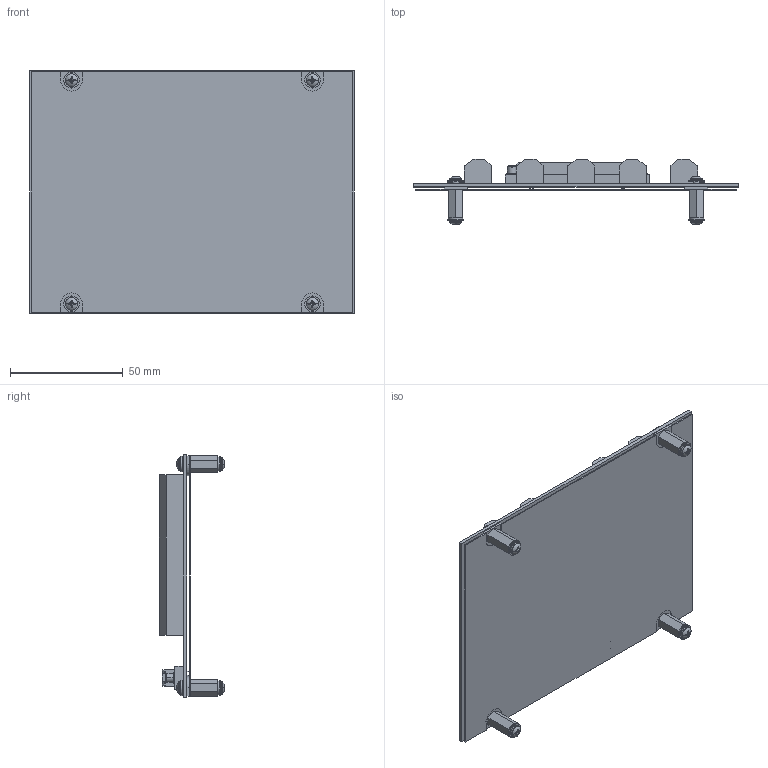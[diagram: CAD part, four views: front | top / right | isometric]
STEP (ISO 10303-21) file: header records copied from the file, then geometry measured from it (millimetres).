
FILE_DESCRIPTION((''),'2;1');
FILE_NAME('CU_CB-68LP','2016-03-09T',('dkendric'),(''),'PRO/ENGINEER BY PARAMETRIC TECHNOLOGY CORPORATION, 2015280','PRO/ENGINEER BY PARAMETRIC TECHNOLOGY CORPORATION, 2015280','');
FILE_SCHEMA(('CONFIG_CONTROL_DESIGN'));
Length unit declared in the file: inch
Products named in the file (1): CU_CB-68LP
Bounding box: 143.51 x 29 x 107.44 mm (x, y, z)
Volume: 77932.2 mm3; surface area: 73108.1 mm2
Topology: 1 solids, 1 shells, 792 faces, 2082 edges, 1179 vertices
Faces by surface type: plane 426, cylinder 166, bspline 160, torus 16, sphere 16, cone 8
Entity records: 26286 total; most frequent: CARTESIAN_POINT 8175, ORIENTED_EDGE 3844, DIRECTION 3460, EDGE_CURVE 1922, VERTEX_POINT 1331, AXIS2_PLACEMENT_3D 1190, VECTOR 1080, LINE 1080
